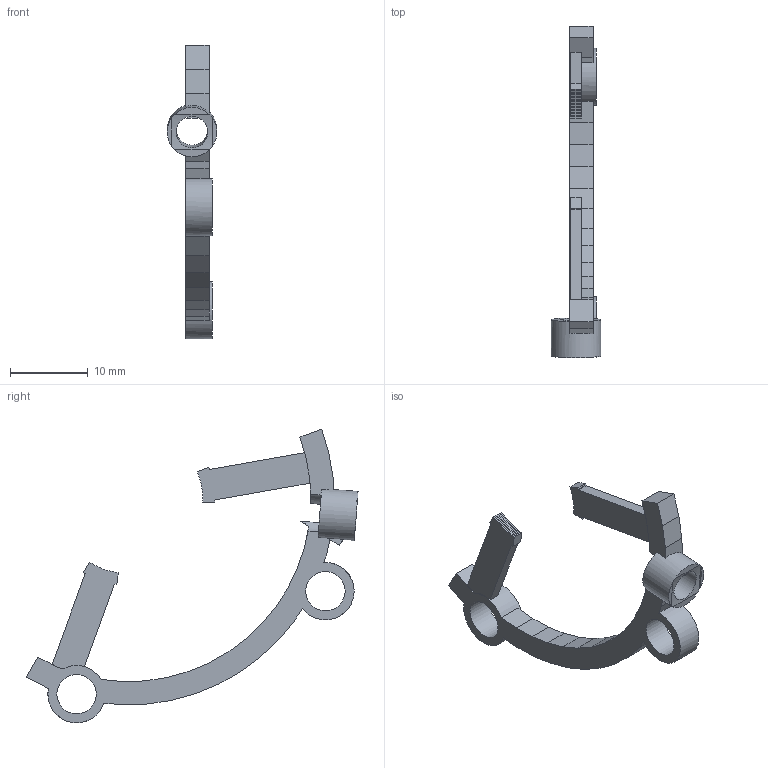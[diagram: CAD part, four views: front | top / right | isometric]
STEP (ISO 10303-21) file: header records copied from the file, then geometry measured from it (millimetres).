
FILE_DESCRIPTION(('Open CASCADE Model'),'2;1');
FILE_NAME('B3_R12_U_axis_two_foot_fork','2026-09-28T18:17:14',('Author') ,('Open CASCADE'),'Open CASCADE STEP processor 7.9','build123d', 'Unknown');
FILE_SCHEMA(('AUTOMOTIVE_DESIGN { 1 0 10303 214 1 1 1 1 }'));
Length unit declared in the file: millimetre
Products named in the file (1): B3_R12_U_axis_two_foot_fork
Bounding box: 6.4 x 42.83 x 37.88 mm (x, y, z)
Volume: 810.5 mm3; surface area: 1384.2 mm2
Topology: 1 solids, 1 shells, 131 faces, 382 edges, 255 vertices
Faces by surface type: plane 119, cylinder 12
Full cylindrical faces by diameter (mm): 1.3 x2, 4.06 x1, 5.08 x2, 6.4 x1, 7.4 x2
Entity records: 9714 total; most frequent: CARTESIAN_POINT 2205, DIRECTION 1333, LINE 952, VECTOR 952, ORIENTED_EDGE 764, PCURVE 764, DEFINITIONAL_REPRESENTATION 764, EDGE_CURVE 382
